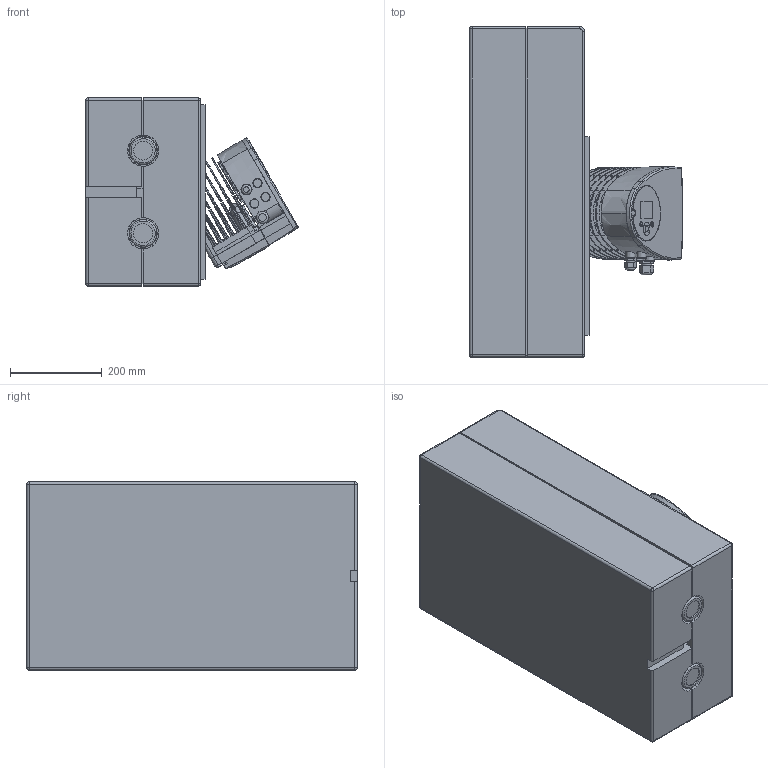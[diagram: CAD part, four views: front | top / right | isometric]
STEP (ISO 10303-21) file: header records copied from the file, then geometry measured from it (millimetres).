
FILE_DESCRIPTION((''),'2;1');
FILE_NAME('C:\Users\Moreuih\Desktop\HK DN40 10026871 (Grundfos)\10026871-HK DN40 (Grundfos Magna3 40-100F).stp','2016-09-01T15:19:20',('Moreuih'),(''),'Autodesk Inventor 2013','Autodesk Inventor 2013','');
FILE_SCHEMA(('AUTOMOTIVE_DESIGN { 1 0 10303 214 1 1 1 1 }'));
Length unit declared in the file: millimetre
Products named in the file (5): 10026871 -  HK DN40 (Grundfos Magna3 40-100F); insulation-back; insulation-front; Pumpe Grundfos Magna3 40-100F; hydrau HK DN40
Assembly tree (4 placements, depth 2):
  10026871 -  HK DN40 (Grundfos Magna3 40-100F)
    insulation-back
    insulation-front
    Pumpe Grundfos Magna3 40-100F
    hydrau HK DN40
Bounding box: 463 x 720 x 410 mm (x, y, z)
Volume: 45559783.2 mm3; surface area: 3258101.8 mm2
Topology: 7 solids, 8 shells, 4463 faces, 11839 edges, 7797 vertices
Faces by surface type: plane 2587, bspline 989, cylinder 504, cone 304, torus 64, sphere 11, revolution 4
Full cylindrical faces by diameter (mm): 2 x2, 2.601 x2, 3 x2, 3.45 x2, 5 x4, 5.1 x2, 8 x6, 8.2 x2, 11.445 x2, 11.7 x2, 12 x21, 13 x17, 13.16 x2, 13.5 x2, 13.8 x2, 14 x8, 14.85 x1, 16.63 x8, 17 x4, 19 x3, 19.8 x1, 20 x19, 21.8 x2, 22 x1, 22.5 x1, 41 x1, 42 x1, 46 x2, 46.5 x2, 51 x2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
Entity records: 184537 total; most frequent: CARTESIAN_POINT 79098, ORIENTED_EDGE 22914, DIRECTION 17675, EDGE_CURVE 11457, VERTEX_POINT 7713, VECTOR 6613, LINE 6613, AXIS2_PLACEMENT_3D 5529
